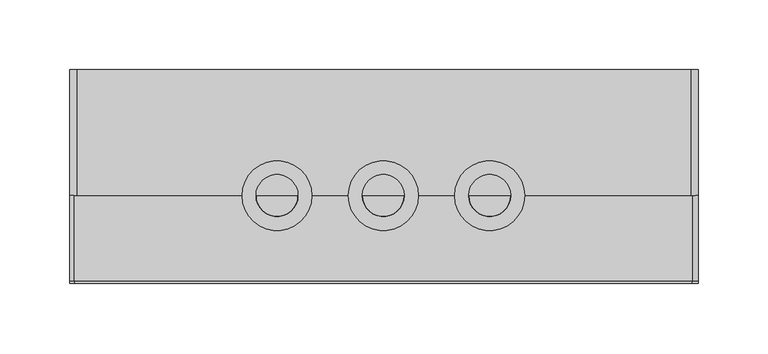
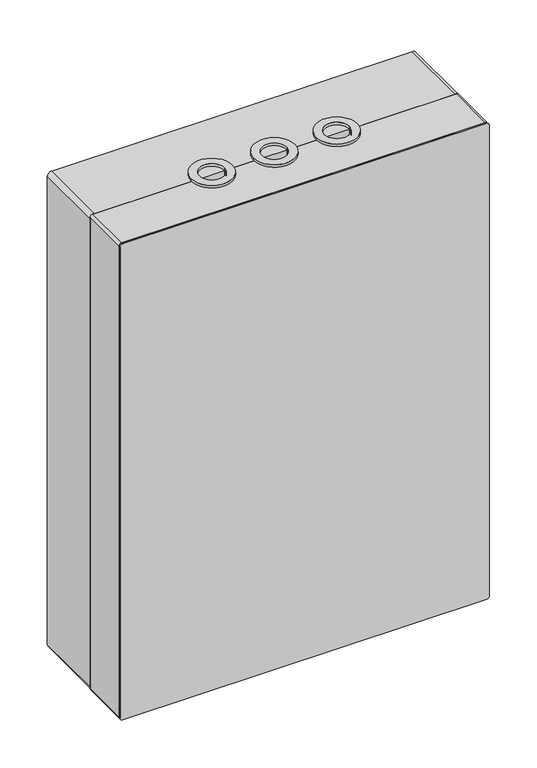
"""IFC4 building model written with IfcOpenShell, lengths in millimetres: proxy geometry, ЩРН-П-36_54_IP65 : ЩРН-П-54_IP65."""

from ifc_helpers import new_model, si_unit, point, frame, frame_2d, origin, place, context, project, spatial, polyline, circle_curve, trimmed, segment, composite_curve, outline, extrude, faceted_brep, source, transform, mapped, element, save
from ifc_brep_helpers import plane_surface, cylinder_surface, revolved_surface, advanced_brep


def electrical_equipment_e3dd529e(model_context):
    return source(origin(), model_context, "Body", "SolidModel", [
        faceted_brep([(224.5, 143.0, 167.0), (224.5, 123.0, 167.0), (224.5, 123.0, 122.0), (224.5, 143.0, 122.0), (224.5, 143.0, 23.0), (224.5, 123.0, 23.0), (224.5, 123.0, -22.0), (224.5, 143.0, -22.0), (224.5, 143.0, -122.0), (224.5, 123.0, -122.0), (224.5, 123.0, -167.0), (224.5, 143.0, -167.0), (224.5, 143.0, -257.0), (224.5, 153.0, -257.0), (224.5, 153.0, 257.0), (224.5, 143.0, 257.0), (201.7026444, 143.0, -167.0), (201.7026444, 123.0, -167.0), (201.7026444, 123.0, -122.0), (201.7026444, 143.0, -122.0), (201.7026444, 143.0, -22.0), (201.7026444, 123.0, -22.0), (201.7026444, 123.0, 23.0), (201.7026444, 143.0, 23.0), (201.7026444, 143.0, 122.0), (201.7026444, 123.0, 122.0), (201.7026444, 123.0, 167.0), (201.7026444, 143.0, 167.0), (-219.0, 143.0, 257.0), (-219.0, 143.0, -257.0), (-219.0, 153.0, -257.0), (-219.0, 153.0, 257.0)], [[[0, 1, 2, 3, 4, 5, 6, 7, 8, 9, 10, 11, 12, 13, 14, 15]], [[16, 17, 18, 19]], [[20, 21, 22, 23]], [[24, 25, 26, 27]], [[1, 0, 27, 26]], [[2, 1, 26, 25]], [[3, 2, 25, 24]], [[4, 3, 24, 27, 0, 15, 28, 29, 12, 11, 16, 19, 8, 7, 20, 23]], [[5, 4, 23, 22]], [[6, 5, 22, 21]], [[7, 6, 21, 20]], [[9, 8, 19, 18]], [[10, 9, 18, 17]], [[11, 10, 17, 16]], [[13, 12, 29, 30]], [[14, 13, 30, 31]], [[28, 15, 14, 31]], [[29, 28, 31, 30]]]),
        advanced_brep(
        [(201.7026444, 123.0, -257.0), (-219.0, 123.0, -257.0), (-219.0, 123.0, 257.0), (201.7026444, 123.0, 257.0), (201.7026444, 123.0, 167.0), (224.5, 123.0, 167.0), (224.5, 123.0, 122.0), (201.7026444, 123.0, 122.0), (201.7026444, 123.0, 23.0), (224.5, 123.0, 23.0), (224.5, 123.0, -22.0), (201.7026444, 123.0, -22.0), (201.7026444, 123.0, -122.0), (224.5, 123.0, -122.0), (224.5, 123.0, -167.0), (201.7026444, 123.0, -167.0), (201.7026444, 143.0, 257.0), (201.7026444, 143.0, 167.0), (201.7026444, 143.0, 122.0), (201.7026444, 143.0, 23.0), (201.7026444, 143.0, -22.0), (201.7026444, 143.0, -122.0), (201.7026444, 143.0, -167.0), (201.7026444, 143.0, -257.0), (-219.0, 153.0, 257.0), (224.5, 153.0, 257.0), (224.5, 143.0, 257.0), (-219.0, 153.0, -257.0), (224.5, 143.0, -257.0), (224.5, 153.0, -257.0), (-219.5, 63.0, 306.0), (-224.5, 63.0, 301.0), (-224.5, 63.0, -301.0), (-219.5, 63.0, -306.0), (219.5, 63.0, -306.0), (224.5, 63.0, -301.0), (224.5, 63.0, 301.0), (219.5, 63.0, 306.0), (-219.5, 153.0, 306.0), (219.5, 153.0, 306.0), (224.5, 153.0, 301.0), (224.5, 153.0, -301.0), (219.5, 153.0, -306.0), (-219.5, 153.0, -306.0), (-224.5, 153.0, -301.0), (-224.5, 153.0, 301.0), (224.5, 143.0, -167.0), (224.5, 143.0, -122.0), (224.5, 143.0, -22.0), (224.5, 143.0, 23.0), (224.5, 143.0, 122.0), (224.5, 143.0, 167.0)],
        [
            (0, 1),
            (1, 2),
            (2, 3),
            (3, 4),
            (4, 5),
            (5, 6),
            (6, 7),
            (7, 8),
            (8, 9),
            (9, 10),
            (10, 11),
            (11, 12),
            (12, 13),
            (13, 14),
            (14, 15),
            (15, 0),
            (3, 16),
            (16, 17),
            (17, 4),
            (7, 18),
            (18, 19),
            (19, 8),
            (11, 20),
            (20, 21),
            (21, 12),
            (15, 22),
            (22, 23),
            (23, 0),
            (2, 24),
            (24, 25),
            (25, 26),
            (26, 16),
            (1, 27),
            (27, 24),
            (23, 28),
            (28, 29),
            (29, 27),
            (30, 31, circle_curve(frame((-219.5, 63.0, 301.0), z_axis=(0.0, -1.0, 0.0), x_axis=(1.0, 0.0, 0.0)), 5.0)),
            (31, 32),
            (32, 33, circle_curve(frame((-219.5, 63.0, -301.0), z_axis=(0.0, -1.0, 0.0), x_axis=(1.0, 0.0, 0.0)), 5.0)),
            (33, 34),
            (34, 35, circle_curve(frame((219.5, 63.0, -301.0), z_axis=(0.0, -1.0, 0.0), x_axis=(1.0, 0.0, 0.0)), 5.0)),
            (35, 36),
            (36, 37, circle_curve(frame((219.5, 63.0, 301.0), z_axis=(0.0, -1.0, 0.0), x_axis=(1.0, 0.0, 0.0)), 5.0)),
            (37, 30),
            (38, 39),
            (39, 40, circle_curve(frame((219.5, 153.0, 301.0), z_axis=(0.0, 1.0, 0.0), x_axis=(1.0, 0.0, 0.0)), 5.0)),
            (40, 25),
            (29, 41),
            (41, 42, circle_curve(frame((219.5, 153.0, -301.0), z_axis=(0.0, 1.0, 0.0), x_axis=(1.0, 0.0, 0.0)), 5.0)),
            (42, 43),
            (43, 44, circle_curve(frame((-219.5, 153.0, -301.0), z_axis=(0.0, 1.0, 0.0), x_axis=(1.0, 0.0, 0.0)), 5.0)),
            (44, 45),
            (45, 38, circle_curve(frame((-219.5, 153.0, 301.0), z_axis=(0.0, 1.0, 0.0), x_axis=(1.0, 0.0, 0.0)), 5.0)),
            (30, 38),
            (45, 31),
            (44, 32),
            (43, 33),
            (42, 34),
            (41, 35),
            (28, 46),
            (46, 14),
            (13, 47),
            (47, 48),
            (48, 10),
            (9, 49),
            (49, 50),
            (50, 6),
            (5, 51),
            (51, 26),
            (40, 36),
            (39, 37),
            (51, 17),
            (50, 18),
            (49, 19),
            (48, 20),
            (47, 21),
            (46, 22),
        ],
        [
            plane_surface(frame((201.7026444, 123.0, -257.0), z_axis=(0.0, 1.0, 0.0), x_axis=(0.0, 0.0, 1.0))),
            plane_surface(frame((201.7026444, 123.0, -257.0), z_axis=(-1.0, 0.0, 0.0), x_axis=(0.0, 1.0, 0.0))),
            plane_surface(frame((201.7026444, 123.0, 257.0), z_axis=(0.0, 0.0, -1.0), x_axis=(0.0, 1.0, 0.0))),
            plane_surface(frame((-219.0, 123.0, 257.0), z_axis=(1.0, 0.0, 0.0), x_axis=(0.0, 1.0, 0.0))),
            plane_surface(frame((-219.0, 123.0, -257.0), z_axis=(0.0, 0.0, 1.0), x_axis=(0.0, 1.0, 0.0))),
            plane_surface(frame((-214.5, 63.0, 301.0), z_axis=(0.0, -1.0, 0.0), x_axis=(0.0, 0.0, 1.0))),
            plane_surface(frame((-214.5, 153.0, 301.0), z_axis=(0.0, 1.0, 0.0), x_axis=(0.0, 0.0, -1.0))),
            cylinder_surface(frame((-219.5, 153.0, 301.0), z_axis=(0.0, -1.0, 0.0), x_axis=(1.0, 0.0, 0.0)), 5.0),
            plane_surface(frame((-224.5, 63.0, 301.0), z_axis=(-1.0, 0.0, 0.0), x_axis=(0.0, 1.0, 0.0))),
            cylinder_surface(frame((-219.5, 153.0, -301.0), z_axis=(0.0, -1.0, 0.0), x_axis=(1.0, 0.0, 0.0)), 5.0),
            plane_surface(frame((-219.5, 63.0, -306.0), z_axis=(0.0, 0.0, -1.0), x_axis=(0.0, 1.0, 0.0))),
            cylinder_surface(frame((219.5, 153.0, -301.0), z_axis=(0.0, -1.0, 0.0), x_axis=(1.0, 0.0, 0.0)), 5.0),
            plane_surface(frame((224.5, 63.0, -301.0), z_axis=(1.0, 0.0, 0.0), x_axis=(0.0, 1.0, 0.0))),
            cylinder_surface(frame((219.5, 153.0, 301.0), z_axis=(0.0, -1.0, 0.0), x_axis=(1.0, 0.0, 0.0)), 5.0),
            plane_surface(frame((219.5, 63.0, 306.0), z_axis=(0.0, 0.0, 1.0), x_axis=(0.0, 1.0, 0.0))),
            plane_surface(frame((224.5, 143.0, 257.0), z_axis=(0.0, 1.0, 0.0), x_axis=(-1.0, 0.0, 0.0))),
            plane_surface(frame((224.5, 143.0, 167.0), z_axis=(0.0, 0.0, -1.0), x_axis=(-1.0, 0.0, 0.0))),
            plane_surface(frame((224.5, 123.0, 122.0), z_axis=(0.0, 0.0, 1.0), x_axis=(-1.0, 0.0, 0.0))),
            plane_surface(frame((224.5, 143.0, 122.0), z_axis=(0.0, 1.0, 0.0), x_axis=(-1.0, 0.0, 0.0))),
            plane_surface(frame((224.5, 143.0, 23.0), z_axis=(0.0, 0.0, -1.0), x_axis=(-1.0, 0.0, 0.0))),
            plane_surface(frame((224.5, 123.0, -22.0), z_axis=(0.0, 0.0, 1.0), x_axis=(-1.0, 0.0, 0.0))),
            plane_surface(frame((224.5, 143.0, -22.0), z_axis=(0.0, 1.0, 0.0), x_axis=(-1.0, 0.0, 0.0))),
            plane_surface(frame((224.5, 143.0, -122.0), z_axis=(0.0, 0.0, -1.0), x_axis=(-1.0, 0.0, 0.0))),
            plane_surface(frame((224.5, 123.0, -167.0), z_axis=(0.0, 0.0, 1.0), x_axis=(-1.0, 0.0, 0.0))),
            plane_surface(frame((224.5, 143.0, -167.0), z_axis=(0.0, 1.0, 0.0), x_axis=(-1.0, 0.0, 0.0))),
        ],
        [
            (0, [[1, 2, 3, 4, 5, 6, 7, 8, 9, 10, 11, 12, 13, 14, 15, 16]]),
            (1, [[-4, 17, 18, 19]]),
            (1, [[-8, 20, 21, 22]]),
            (1, [[-12, 23, 24, 25]]),
            (1, [[-16, 26, 27, 28]]),
            (2, [[-3, 29, 30, 31, 32, -17]]),
            (3, [[-2, 33, 34, -29]]),
            (4, [[-1, -28, 35, 36, 37, -33]]),
            (5, [[38, 39, 40, 41, 42, 43, 44, 45]]),
            (6, [[46, 47, 48, -30, -34, -37, 49, 50, 51, 52, 53, 54]]),
            (7, [[-38, 55, -54, 56]]),
            (8, [[-39, -56, -53, 57]]),
            (9, [[-40, -57, -52, 58]]),
            (10, [[-41, -58, -51, 59]]),
            (11, [[-42, -59, -50, 60]]),
            (12, [[-43, -60, -49, -36, 61, 62, -14, 63, 64, 65, -10, 66, 67, 68, -6, 69, 70, -31, -48, 71]]),
            (13, [[-44, -71, -47, 72]]),
            (14, [[-45, -72, -46, -55]]),
            (15, [[-32, -70, 73, -18]]),
            (16, [[-5, -19, -73, -69]]),
            (17, [[-7, -68, 74, -20]]),
            (18, [[-74, -67, 75, -21]]),
            (19, [[-9, -22, -75, -66]]),
            (20, [[-11, -65, 76, -23]]),
            (21, [[-76, -64, 77, -24]]),
            (22, [[-13, -25, -77, -63]]),
            (23, [[-15, -62, 78, -26]]),
            (24, [[-35, -27, -78, -61]]),
        ],
    ),
        advanced_brep(
        [(220.5283006, 2.0, 306.0), (-221.5, 2.0, 306.0), (-224.5, 2.0, 303.0), (-224.5, 2.0, -303.0), (-221.5, 2.0, -306.0), (221.5, 2.0, -306.0), (224.5, 2.0, -303.0), (224.5, 2.0, 302.0283006), (220.5283006, 63.0, 306.0), (224.5, 63.0, 302.0283006), (224.5, 63.0, -303.0), (221.5, 63.0, -306.0), (-221.5, 63.0, -306.0), (-224.5, 63.0, -303.0), (-224.5, 63.0, 303.0), (-221.5, 63.0, 306.0), (-91.4858497, 63.0, 306.0), (-91.4858497, 63.0, 257.0), (-61.4858497, 63.0, 257.0), (-61.4858497, 63.0, 306.0), (-15.4858497, 63.0, 306.0), (-15.4858497, 63.0, 257.0), (14.5141503, 63.0, 257.0), (14.5141503, 63.0, 306.0), (60.5141503, 63.0, 306.0), (60.5141503, 63.0, 257.0), (90.5141503, 63.0, 257.0), (90.5141503, 63.0, 306.0)],
        [
            (0, 1),
            (1, 2, circle_curve(frame((-221.5, 2.0, 303.0), z_axis=(0.0, -1.0, 0.0), x_axis=(1.0, 0.0, 0.0)), 3.0)),
            (2, 3),
            (3, 4, circle_curve(frame((-221.5, 2.0, -303.0), z_axis=(0.0, -1.0, 0.0), x_axis=(1.0, 0.0, 0.0)), 3.0)),
            (4, 5),
            (5, 6, circle_curve(frame((221.5, 2.0, -303.0), z_axis=(0.0, -1.0, 0.0), x_axis=(1.0, 0.0, 0.0)), 3.0)),
            (6, 7),
            (7, 0, circle_curve(frame((220.5283006, 2.0, 302.0283006), z_axis=(0.0, -1.0, 0.0), x_axis=(1.0, 0.0, 0.0)), 3.9716994)),
            (8, 9, circle_curve(frame((220.5283006, 63.0, 302.0283006), z_axis=(0.0, 1.0, 0.0), x_axis=(1.0, 0.0, 0.0)), 3.9716994)),
            (9, 10),
            (10, 11, circle_curve(frame((221.5, 63.0, -303.0), z_axis=(0.0, 1.0, 0.0), x_axis=(1.0, 0.0, 0.0)), 3.0)),
            (11, 12),
            (12, 13, circle_curve(frame((-221.5, 63.0, -303.0), z_axis=(0.0, 1.0, 0.0), x_axis=(1.0, 0.0, 0.0)), 3.0)),
            (13, 14),
            (14, 15, circle_curve(frame((-221.5, 63.0, 303.0), z_axis=(0.0, 1.0, 0.0), x_axis=(1.0, 0.0, 0.0)), 3.0)),
            (15, 16),
            (16, 17),
            (17, 18),
            (18, 19),
            (19, 20),
            (20, 21),
            (21, 22),
            (22, 23),
            (23, 24),
            (24, 25),
            (25, 26),
            (26, 27),
            (27, 8),
            (0, 8),
            (27, 24, circle_curve(frame((75.5141503, 63.0, 306.0), z_axis=(0.0, 0.0, -1.0), x_axis=(1.0, 0.0, 0.0)), 15.0)),
            (23, 20, circle_curve(frame((-0.4858497, 63.0, 306.0), z_axis=(0.0, 0.0, -1.0), x_axis=(1.0, 0.0, 0.0)), 15.0)),
            (19, 16, circle_curve(frame((-76.4858497, 63.0, 306.0), z_axis=(0.0, 0.0, -1.0), x_axis=(1.0, 0.0, 0.0)), 15.0)),
            (15, 1),
            (14, 2),
            (13, 3),
            (12, 4),
            (11, 5),
            (10, 6),
            (9, 7),
            (17, 18, circle_curve(frame((-76.4858497, 63.0, 257.0), z_axis=(0.0, 0.0, 1.0), x_axis=(1.0, 0.0, 0.0)), 15.0)),
            (21, 22, circle_curve(frame((-0.4858497, 63.0, 257.0), z_axis=(0.0, 0.0, 1.0), x_axis=(1.0, 0.0, 0.0)), 15.0)),
            (25, 26, circle_curve(frame((75.5141503, 63.0, 257.0), z_axis=(0.0, 0.0, 1.0), x_axis=(1.0, 0.0, 0.0)), 15.0)),
        ],
        [
            plane_surface(frame((-221.5, 2.0, 306.0), z_axis=(0.0, -1.0, 0.0), x_axis=(-1.0, 0.0, 0.0))),
            plane_surface(frame((-221.5, 63.0, 306.0), z_axis=(0.0, 1.0, 0.0), x_axis=(1.0, 0.0, 0.0))),
            plane_surface(frame((220.5283006, 2.0, 306.0), z_axis=(0.0, 0.0, 1.0), x_axis=(0.0, 1.0, 0.0))),
            cylinder_surface(frame((-221.5, 63.0, 303.0), z_axis=(0.0, -1.0, 0.0), x_axis=(1.0, 0.0, 0.0)), 3.0),
            plane_surface(frame((-224.5, 2.0, 303.0), z_axis=(-1.0, 0.0, 0.0), x_axis=(0.0, 1.0, 0.0))),
            cylinder_surface(frame((-221.5, 63.0, -303.0), z_axis=(0.0, -1.0, 0.0), x_axis=(1.0, 0.0, 0.0)), 3.0),
            plane_surface(frame((-221.5, 2.0, -306.0), z_axis=(0.0, 0.0, -1.0), x_axis=(0.0, 1.0, 0.0))),
            cylinder_surface(frame((221.5, 63.0, -303.0), z_axis=(0.0, -1.0, 0.0), x_axis=(1.0, 0.0, 0.0)), 3.0),
            plane_surface(frame((224.5, 2.0, -303.0), z_axis=(1.0, 0.0, 0.0), x_axis=(0.0, 1.0, 0.0))),
            cylinder_surface(frame((220.5283006, 63.0, 302.0283006), z_axis=(0.0, -1.0, 0.0), x_axis=(1.0, 0.0, 0.0)), 3.9716994),
            plane_surface(frame((-61.4858497, 63.0, 257.0), z_axis=(0.0, 0.0, 1.0), x_axis=(0.0, -1.0, 0.0))),
            revolved_surface(polyline([(-61.4858497, 63.0, 306.0), (-61.4858497, 63.0, 257.0)]), (-76.4858497, 63.0, 257.0), (0.0, 0.0, 1.0)),
            revolved_surface(polyline([(14.5141503, 63.0, 306.0), (14.5141503, 63.0, 257.0)]), (-0.4858497, 63.0, 0.0), (0.0, 0.0, 1.0)),
            revolved_surface(polyline([(90.5141503, 63.0, 306.0), (90.5141503, 63.0, 257.0)]), (75.5141503, 63.0, 0.0), (0.0, 0.0, 1.0)),
        ],
        [
            (0, [[1, 2, 3, 4, 5, 6, 7, 8]]),
            (1, [[9, 10, 11, 12, 13, 14, 15, 16, 17, 18, 19, 20, 21, 22, 23, 24, 25, 26, 27, 28]]),
            (2, [[-1, 29, -28, 30, -24, 31, -20, 32, -16, 33]]),
            (3, [[-2, -33, -15, 34]]),
            (4, [[-3, -34, -14, 35]]),
            (5, [[-4, -35, -13, 36]]),
            (6, [[-5, -36, -12, 37]]),
            (7, [[-6, -37, -11, 38]]),
            (8, [[-7, -38, -10, 39]]),
            (9, [[-8, -39, -9, -29]]),
            (10, [[40, -18]]),
            (10, [[41, -22]]),
            (10, [[42, -26]]),
            (11, [[-40, -17, -32, -19]]),
            (12, [[-41, -21, -31, -23]]),
            (13, [[-42, -25, -30, -27]]),
        ],
    ),
        extrude(outline(composite_curve([segment(trimmed(circle_curve(frame_2d((-0.4858497, 63.0)), 25.0), [point((-25.4858497, 63.0))], [point((24.5141503, 63.0))], False, "CARTESIAN"), True, "CONTINUOUS"), segment(trimmed(circle_curve(frame_2d((-0.4858497, 63.0)), 25.0), [point((24.5141503, 63.0))], [point((-25.4858497, 63.0))], False, "CARTESIAN"), True, "CONTINUOUS")], self_intersect=False), holes=[composite_curve([segment(trimmed(circle_curve(frame_2d((-0.4858497, 63.0)), 15.0), [point((-15.4858497, 63.0))], [point((14.5141503, 63.0))], True, "CARTESIAN"), True, "CONTINUOUS"), segment(trimmed(circle_curve(frame_2d((-0.4858497, 63.0)), 15.0), [point((14.5141503, 63.0))], [point((-15.4858497, 63.0))], True, "CARTESIAN"), True, "CONTINUOUS")], self_intersect=False)]), frame((0.0, 0.0, 306.0), z_axis=(0.0, 0.0, 1.0), x_axis=(1.0, 0.0, 0.0)), (0.0, 0.0, 1.0), 3.6328561),
        extrude(outline(composite_curve([segment(trimmed(circle_curve(frame_2d((75.5141503, 63.0)), 25.0), [point((50.5141503, 63.0))], [point((100.5141503, 63.0))], False, "CARTESIAN"), True, "CONTINUOUS"), segment(trimmed(circle_curve(frame_2d((75.5141503, 63.0)), 25.0), [point((100.5141503, 63.0))], [point((50.5141503, 63.0))], False, "CARTESIAN"), True, "CONTINUOUS")], self_intersect=False), holes=[composite_curve([segment(trimmed(circle_curve(frame_2d((75.5141503, 63.0)), 15.0), [point((60.5141503, 63.0))], [point((90.5141503, 63.0))], True, "CARTESIAN"), True, "CONTINUOUS"), segment(trimmed(circle_curve(frame_2d((75.5141503, 63.0)), 15.0), [point((90.5141503, 63.0))], [point((60.5141503, 63.0))], True, "CARTESIAN"), True, "CONTINUOUS")], self_intersect=False)]), frame((0.0, 0.0, 306.0), z_axis=(0.0, 0.0, 1.0), x_axis=(1.0, 0.0, 0.0)), (0.0, 0.0, 1.0), 3.6328561),
        extrude(outline(composite_curve([segment(trimmed(circle_curve(frame_2d((-76.4858497, 63.0)), 25.0), [point((-101.4858497, 63.0))], [point((-51.4858497, 63.0))], False, "CARTESIAN"), True, "CONTINUOUS"), segment(trimmed(circle_curve(frame_2d((-76.4858497, 63.0)), 25.0), [point((-51.4858497, 63.0))], [point((-101.4858497, 63.0))], False, "CARTESIAN"), True, "CONTINUOUS")], self_intersect=False), holes=[composite_curve([segment(trimmed(circle_curve(frame_2d((-76.4858497, 63.0)), 15.0), [point((-91.4858497, 63.0))], [point((-61.4858497, 63.0))], True, "CARTESIAN"), True, "CONTINUOUS"), segment(trimmed(circle_curve(frame_2d((-76.4858497, 63.0)), 15.0), [point((-61.4858497, 63.0))], [point((-91.4858497, 63.0))], True, "CARTESIAN"), True, "CONTINUOUS")], self_intersect=False)]), frame((0.0, 0.0, 306.0), z_axis=(0.0, 0.0, 1.0), x_axis=(1.0, 0.0, 0.0)), (0.0, 0.0, 1.0), 3.6328561),
        extrude(outline(composite_curve([segment(trimmed(circle_curve(frame_2d((303.0, -221.5)), 3.0), [point((306.0, -221.5))], [point((303.0, -224.5))], False, "CARTESIAN"), True, "CONTINUOUS"), segment(polyline([(303.0, -224.5), (-303.0, -224.5)]), True, "CONTINUOUS"), segment(trimmed(circle_curve(frame_2d((-303.0, -221.5)), 3.0), [point((-303.0, -224.5))], [point((-306.0, -221.5))], False, "CARTESIAN"), True, "CONTINUOUS"), segment(polyline([(-306.0, -221.5), (-306.0, 221.5)]), True, "CONTINUOUS"), segment(trimmed(circle_curve(frame_2d((-303.0, 221.5)), 3.0), [point((-306.0, 221.5))], [point((-303.0, 224.5))], False, "CARTESIAN"), True, "CONTINUOUS"), segment(polyline([(-303.0, 224.5), (302.0283006, 224.5)]), True, "CONTINUOUS"), segment(trimmed(circle_curve(frame_2d((302.0283006, 220.5283006)), 3.9716994), [point((302.0283006, 224.5))], [point((306.0, 220.5283006))], False, "CARTESIAN"), True, "CONTINUOUS"), segment(polyline([(306.0, 220.5283006), (306.0, -221.5)]), True, "CONTINUOUS")], self_intersect=False)), frame((0.0, 0.0, 0.0), z_axis=(0.0, 1.0, 0.0), x_axis=(0.0, 0.0, 1.0)), (0.0, 0.0, 1.0), 2.0),
    ])


if __name__ == "__main__":
    model = new_model("IFC4")
    model_context = context("Model", 3, world=origin())
    ifc_project = project(units=[si_unit("LENGTHUNIT", "METRE", prefix="MILLI")], contexts=[model_context])
    site = spatial("IfcSite", under=ifc_project)
    building = spatial("IfcBuilding", under=site)
    placement = place(None, origin())
    electrical_equipment_shape = electrical_equipment_e3dd529e(model_context)
    element("IfcBuildingElementProxy", 1, Name="ЩРН-П-36_54_IP65 : ЩРН-П-54_IP65", ObjectType="ЩРН-П-36_54_IP65 : ЩРН-П-54_IP65", at=placement, inside=building, context=model_context, shape_type="MappedRepresentation", body=[
        mapped(electrical_equipment_shape, transform((0.0, 0.0, 0.0), x_axis=(1.0, 0.0, 0.0), y_axis=(0.0, 1.0, 0.0), z_axis=(0.0, 0.0, 1.0))),
    ])
    save(model, "model.ifc")
